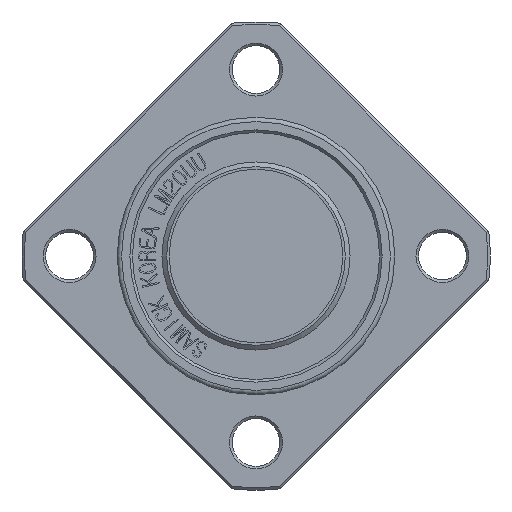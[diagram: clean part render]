
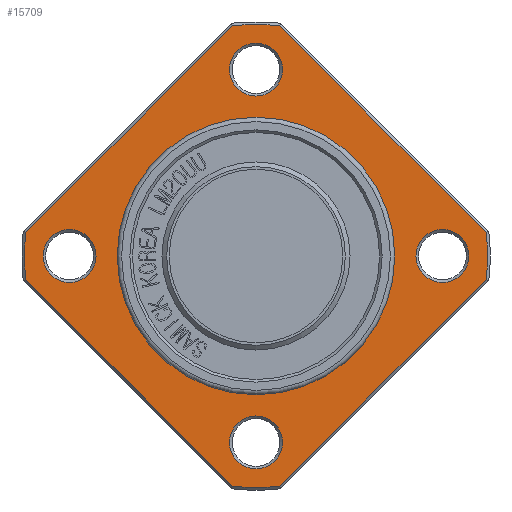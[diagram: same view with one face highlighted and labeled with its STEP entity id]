
A CAD part, front view. The second image highlights one B-rep face of the part: STEP entity #15709.
In plain terms, the highlighted planar face has unit normal (0, -1, 0).
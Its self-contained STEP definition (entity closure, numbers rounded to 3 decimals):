
#2230=FACE_BOUND('',#3411,.T.);
#2231=FACE_BOUND('',#3412,.T.);
#2232=FACE_BOUND('',#3413,.T.);
#2233=FACE_BOUND('',#3414,.T.);
#2234=FACE_BOUND('',#3415,.T.);
#2290=PLANE('',#16617);
#2533=FACE_OUTER_BOUND('',#3410,.T.);
#3410=EDGE_LOOP('',(#10830,#10831,#10832,#10833,#10834,#10835,#10836,#10837));
#3411=EDGE_LOOP('',(#10838));
#3412=EDGE_LOOP('',(#10839));
#3413=EDGE_LOOP('',(#10840,#10841));
#3414=EDGE_LOOP('',(#10842));
#3415=EDGE_LOOP('',(#10843));
#4344=LINE('',#18912,#5496);
#4345=LINE('',#18916,#5497);
#4346=LINE('',#18920,#5498);
#4347=LINE('',#18924,#5499);
#5496=VECTOR('',#17018,10.);
#5497=VECTOR('',#17021,10.);
#5498=VECTOR('',#17024,10.);
#5499=VECTOR('',#17027,10.);
#6655=CIRCLE('',#16615,3.05);
#6657=CIRCLE('',#16618,26.7);
#6658=CIRCLE('',#16619,26.7);
#6659=CIRCLE('',#16620,26.7);
#6660=CIRCLE('',#16621,26.7);
#6661=CIRCLE('',#16622,3.05);
#6662=CIRCLE('',#16623,3.05);
#6663=CIRCLE('',#16624,16.);
#6664=CIRCLE('',#16625,16.);
#6665=CIRCLE('',#16626,3.05);
#6749=VERTEX_POINT('',#18904);
#6751=VERTEX_POINT('',#18910);
#6752=VERTEX_POINT('',#18911);
#6753=VERTEX_POINT('',#18913);
#6754=VERTEX_POINT('',#18915);
#6755=VERTEX_POINT('',#18917);
#6756=VERTEX_POINT('',#18919);
#6757=VERTEX_POINT('',#18921);
#6758=VERTEX_POINT('',#18923);
#6759=VERTEX_POINT('',#18926);
#6760=VERTEX_POINT('',#18928);
#6761=VERTEX_POINT('',#18930);
#6762=VERTEX_POINT('',#18931);
#6763=VERTEX_POINT('',#18934);
#8379=EDGE_CURVE('',#6749,#6749,#6655,.T.);
#8382=EDGE_CURVE('',#6751,#6752,#4344,.T.);
#8383=EDGE_CURVE('',#6751,#6753,#6657,.T.);
#8384=EDGE_CURVE('',#6754,#6753,#4345,.T.);
#8385=EDGE_CURVE('',#6754,#6755,#6658,.T.);
#8386=EDGE_CURVE('',#6756,#6755,#4346,.T.);
#8387=EDGE_CURVE('',#6756,#6757,#6659,.T.);
#8388=EDGE_CURVE('',#6758,#6757,#4347,.T.);
#8389=EDGE_CURVE('',#6758,#6752,#6660,.T.);
#8390=EDGE_CURVE('',#6759,#6759,#6661,.T.);
#8391=EDGE_CURVE('',#6760,#6760,#6662,.T.);
#8392=EDGE_CURVE('',#6761,#6762,#6663,.T.);
#8393=EDGE_CURVE('',#6762,#6761,#6664,.T.);
#8394=EDGE_CURVE('',#6763,#6763,#6665,.T.);
#10830=ORIENTED_EDGE('',*,*,#8382,.F.);
#10831=ORIENTED_EDGE('',*,*,#8383,.T.);
#10832=ORIENTED_EDGE('',*,*,#8384,.F.);
#10833=ORIENTED_EDGE('',*,*,#8385,.T.);
#10834=ORIENTED_EDGE('',*,*,#8386,.F.);
#10835=ORIENTED_EDGE('',*,*,#8387,.T.);
#10836=ORIENTED_EDGE('',*,*,#8388,.F.);
#10837=ORIENTED_EDGE('',*,*,#8389,.T.);
#10838=ORIENTED_EDGE('',*,*,#8390,.F.);
#10839=ORIENTED_EDGE('',*,*,#8391,.F.);
#10840=ORIENTED_EDGE('',*,*,#8392,.F.);
#10841=ORIENTED_EDGE('',*,*,#8393,.F.);
#10842=ORIENTED_EDGE('',*,*,#8394,.F.);
#10843=ORIENTED_EDGE('',*,*,#8379,.F.);
#15709=ADVANCED_FACE('',(#2533,#2230,#2231,#2232,#2233,#2234),#2290,.T.);
#16615=AXIS2_PLACEMENT_3D('',#18905,#17011,#17012);
#16617=AXIS2_PLACEMENT_3D('',#18909,#17016,#17017);
#16618=AXIS2_PLACEMENT_3D('',#18914,#17019,#17020);
#16619=AXIS2_PLACEMENT_3D('',#18918,#17022,#17023);
#16620=AXIS2_PLACEMENT_3D('',#18922,#17025,#17026);
#16621=AXIS2_PLACEMENT_3D('',#18925,#17028,#17029);
#16622=AXIS2_PLACEMENT_3D('',#18927,#17030,#17031);
#16623=AXIS2_PLACEMENT_3D('',#18929,#17032,#17033);
#16624=AXIS2_PLACEMENT_3D('',#18932,#17034,#17035);
#16625=AXIS2_PLACEMENT_3D('',#18933,#17036,#17037);
#16626=AXIS2_PLACEMENT_3D('',#18935,#17038,#17039);
#17011=DIRECTION('center_axis',(0.,-1.,0.));
#17012=DIRECTION('ref_axis',(0.,0.,-1.));
#17016=DIRECTION('center_axis',(0.,-1.,0.));
#17017=DIRECTION('ref_axis',(0.,0.,-1.));
#17018=DIRECTION('',(0.707,0.,-0.707));
#17019=DIRECTION('center_axis',(0.,-1.,0.));
#17020=DIRECTION('ref_axis',(1.,0.,0.));
#17021=DIRECTION('',(0.707,0.,0.707));
#17022=DIRECTION('center_axis',(0.,-1.,0.));
#17023=DIRECTION('ref_axis',(1.,0.,0.));
#17024=DIRECTION('',(-0.707,0.,0.707));
#17025=DIRECTION('center_axis',(0.,-1.,0.));
#17026=DIRECTION('ref_axis',(1.,0.,0.));
#17027=DIRECTION('',(-0.707,0.,-0.707));
#17028=DIRECTION('center_axis',(0.,-1.,0.));
#17029=DIRECTION('ref_axis',(1.,0.,0.));
#17030=DIRECTION('center_axis',(0.,-1.,0.));
#17031=DIRECTION('ref_axis',(1.,0.,0.));
#17032=DIRECTION('center_axis',(0.,-1.,0.));
#17033=DIRECTION('ref_axis',(0.,0.,
1.));
#17034=DIRECTION('center_axis',(0.,-1.,0.));
#17035=DIRECTION('ref_axis',(1.,0.,0.));
#17036=DIRECTION('center_axis',(0.,-1.,0.));
#17037=DIRECTION('ref_axis',(1.,0.,0.));
#17038=DIRECTION('center_axis',(0.,-1.,0.));
#17039=DIRECTION('ref_axis',(-1.,0.,0.));
#18904=CARTESIAN_POINT('',(0.,24.,-18.45));
#18905=CARTESIAN_POINT('Origin',(0.,24.,-21.5));
#18909=CARTESIAN_POINT('Origin',(16.,24.,0.));
#18910=CARTESIAN_POINT('',(2.712,24.,26.562));
#18911=CARTESIAN_POINT('',(26.562,24.,2.712));
#18912=CARTESIAN_POINT('',(24.637,24.,4.637));
#18913=CARTESIAN_POINT('',(-2.712,24.,26.562));
#18914=CARTESIAN_POINT('Origin',(0.,24.,0.));
#18915=CARTESIAN_POINT('',(-26.562,24.,2.712));
#18916=CARTESIAN_POINT('',(-4.637,24.,24.637));
#18917=CARTESIAN_POINT('',(-26.562,24.,-2.712));
#18918=CARTESIAN_POINT('Origin',(0.,24.,0.));
#18919=CARTESIAN_POINT('',(-2.712,24.,-26.562));
#18920=CARTESIAN_POINT('',(-16.637,24.,-12.637));
#18921=CARTESIAN_POINT('',(2.712,24.,-26.562));
#18922=CARTESIAN_POINT('Origin',(0.,24.,0.));
#18923=CARTESIAN_POINT('',(26.562,24.,-2.712));
#18924=CARTESIAN_POINT('',(12.637,24.,-16.637));
#18925=CARTESIAN_POINT('Origin',(0.,24.,0.));
#18926=CARTESIAN_POINT('',(18.45,24.,0.));
#18927=CARTESIAN_POINT('Origin',(21.5,24.,0.));
#18928=CARTESIAN_POINT('',(0.,24.,18.45));
#18929=CARTESIAN_POINT('Origin',(0.,24.,21.5));
#18930=CARTESIAN_POINT('',(16.,24.,0.));
#18931=CARTESIAN_POINT('',(-16.,24.,0.));
#18932=CARTESIAN_POINT('Origin',(0.,24.,0.));
#18933=CARTESIAN_POINT('Origin',(0.,24.,0.));
#18934=CARTESIAN_POINT('',(-18.45,24.,0.));
#18935=CARTESIAN_POINT('Origin',(-21.5,24.,0.));
